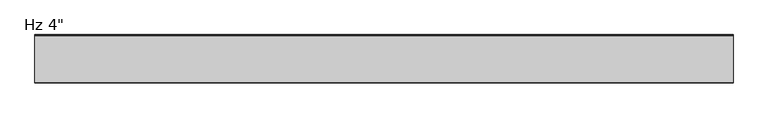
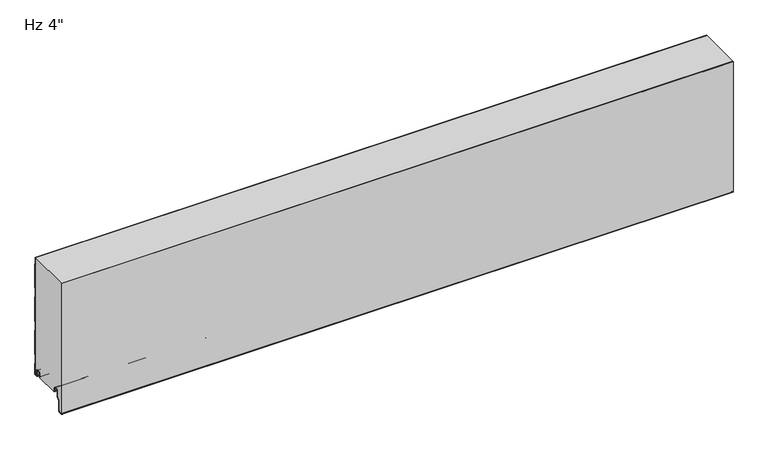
"""IFC4 building model written with IfcOpenShell, lengths in millimetres: plate geometry."""

from ifc_helpers import new_model, si_unit, point, frame, frame_2d, origin, place, context, project, spatial, polyline, circle_curve, trimmed, segment, composite_curve, outline, extrude, source, transform, mapped, element, save
from ifc_brep_helpers import plane_surface, cylinder_surface, revolved_surface, advanced_brep


def plate_fa2d5985(model_context):
    return source(origin(), model_context, "Body", "SolidModel", [
        advanced_brep(
        [(-730.0, -17.0015159, 2.0313088), (-730.0, -18.0015191, 1.0313116), (-730.0, -19.0015105, 2.0313088), (-730.0, -19.0015105, 6.0315125), (-730.0, -18.0015159, 6.0315125), (-730.0, -18.0015159, 8.7237223), (-730.0, -14.7015202, 12.023718), (-730.0, -10.301529, 12.023718), (-730.0, -7.0015335, 8.7237225), (-730.0, -7.0015335, -1.6962564), (-730.0, -5.2315393, -3.4662506), (-730.0, -0.9999916, -3.4662506), (-730.0, -0.9999916, 21.034026), (-730.0, -2.2002307, 22.4196686), (-730.0, -2.2002307, 41.7948349), (-730.0, -1.0, 43.1804679), (-730.0, -1.0, 97.2338833), (-730.0, -2.2002307, 98.6195162), (-730.0, -2.2002307, 117.9946825), (-730.0, -1.0, 119.3803155), (-730.0, -1.0, 173.4337309), (-730.0, -2.2002307, 174.8193638), (-730.0, -2.2002307, 194.1945301), (-730.0, -1.0, 195.5801631), (-730.0, -1.0, 249.6335785), (-730.0, -2.2002307, 251.0192114), (-730.0, -2.2002307, 266.4), (-730.0, -1.2002307, 266.4), (-730.0, -1.2002307, 251.3920919), (-730.0, -0.3417885, 250.4010442), (-730.0, 0.0, 249.4844273), (-730.0, 0.0, 195.7293142), (-730.0, -0.3417885, 194.8126973), (-730.0, -1.2002307, 193.8216497), (-730.0, -1.2002307, 175.1922443), (-730.0, -0.3417885, 174.2011966), (-730.0, 0.0, 173.2845797), (-730.0, 0.0, 119.5294666), (-730.0, -0.3417885, 118.6128497), (-730.0, -1.2002307, 117.6218021), (-730.0, -1.2002307, 98.9923967), (-730.0, -0.3417885, 98.001349), (-730.0, 0.0, 97.0847321), (-730.0, 0.0, 43.329619), (-730.0, -0.3417885, 42.4130021), (-730.0, -1.2002307, 41.4219545), (-730.0, -1.2002307, 22.7925491), (-730.0, -0.3417885, 21.8015014), (-730.0, 0.0, 20.8847931), (-730.0, 8.4e-06, -3.0662545), (-730.0, -1.3999878, -4.4662506), (-730.0, -5.2315393, -4.4662506), (-730.0, -8.0015335, -1.6962564), (-730.0, -8.0015335, 8.7237225), (-730.0, -10.301529, 11.023718), (-730.0, -14.7015202, 11.023718), (-730.0, -17.0015159, 8.7237223), (730.0, -17.0015159, 2.0313088), (730.0, -17.0015159, 8.7237223), (730.0, -14.7015202, 11.023718), (730.0, -10.301529, 11.023718), (730.0, -8.0015335, 8.7237225), (730.0, -8.0015335, -1.6962564), (730.0, -5.2315393, -4.4662506), (730.0, -1.3999878, -4.4662506), (730.0, 8.4e-06, -3.0662545), (730.0, 8.4e-06, 20.8848845), (730.0, -0.3417885, 21.8015014), (730.0, -1.2002307, 22.7925491), (730.0, -1.2002307, 41.4219545), (730.0, -0.3417885, 42.4130021), (730.0, 0.0, 43.329619), (730.0, 0.0, 97.0847321), (730.0, -0.3417885, 98.001349), (730.0, -1.2002307, 98.9923967), (730.0, -1.2002307, 117.6218021), (730.0, -0.3417885, 118.6128497), (730.0, 0.0, 119.5294666), (730.0, 0.0, 173.2845797), (730.0, -0.3417885, 174.2011966), (730.0, -1.2002307, 175.1922443), (730.0, -1.2002307, 193.8216497), (730.0, -0.3417885, 194.8126973), (730.0, 0.0, 195.7293142), (730.0, 0.0, 249.4844273), (730.0, -0.3417885, 250.4010442), (730.0, -1.2002307, 251.3920919), (730.0, -1.2002307, 266.4), (730.0, -2.2002307, 266.4), (730.0, -2.2002307, 251.0192114), (730.0, -1.0, 249.6335785), (730.0, -1.0, 195.5801631), (730.0, -2.2002307, 194.1945301), (730.0, -2.2002307, 174.8193638), (730.0, -1.0, 173.4337309), (730.0, -1.0, 119.3803155), (730.0, -2.2002307, 117.9946825), (730.0, -2.2002307, 98.6195162), (730.0, -1.0, 97.2338833), (730.0, -1.0, 43.1804679), (730.0, -2.2002307, 41.7948349), (730.0, -2.2002307, 22.4196686), (730.0, -0.9999916, 21.034026), (730.0, -0.9999916, -3.4662506), (730.0, -5.2315393, -3.4662506), (730.0, -7.0015335, -1.6962564), (730.0, -7.0015335, 8.7237225), (730.0, -10.301529, 12.023718), (730.0, -14.7015202, 12.023718), (730.0, -18.0015159, 8.7237223), (730.0, -18.0015159, 6.0315125), (730.0, -19.0015105, 6.0315125), (730.0, -19.0015105, 2.0313088), (730.0, -18.0015192, 1.0313116)],
        [
            (0, 1, circle_curve(frame((-730.0, -18.0015132, 2.0313088), z_axis=(-1.0, 0.0, 0.0), x_axis=(0.0, 0.0, 1.0)), 0.9999973)),
            (1, 2, circle_curve(frame((-730.0, -18.0015133, 2.0313088), z_axis=(-1.0, 0.0, 0.0), x_axis=(0.0, 0.0, 1.0)), 0.9999972)),
            (2, 3),
            (3, 4),
            (4, 5),
            (5, 6, circle_curve(frame((-730.0, -14.7015202, 8.7237223), z_axis=(-1.0, 0.0, 0.0), x_axis=(0.0, 0.0, 1.0)), 3.2999957)),
            (6, 7),
            (7, 8, circle_curve(frame((-730.0, -10.301529, 8.7237225), z_axis=(-1.0, 0.0, 0.0), x_axis=(0.0, 0.0, 1.0)), 3.2999955)),
            (8, 9),
            (9, 10, circle_curve(frame((-730.0, -5.2315393, -1.6962564), z_axis=(1.0, 0.0, 0.0), x_axis=(0.0, 0.0, 1.0)), 1.7699942)),
            (10, 11),
            (11, 12),
            (12, 13),
            (13, 14),
            (14, 15),
            (15, 16),
            (16, 17),
            (17, 18),
            (18, 19),
            (19, 20),
            (20, 21),
            (21, 22),
            (22, 23),
            (23, 24),
            (24, 25),
            (25, 26),
            (26, 27),
            (27, 28),
            (28, 29),
            (29, 30, circle_curve(frame((-730.0, -1.3999972, 249.4844273), z_axis=(-1.0, 0.0, 0.0), x_axis=(0.0, 0.0, 1.0)), 1.3999972)),
            (30, 31),
            (31, 32, circle_curve(frame((-730.0, -1.3999972, 195.7293142), z_axis=(-1.0, 0.0, 0.0), x_axis=(0.0, 0.0, 1.0)), 1.3999972)),
            (32, 33),
            (33, 34),
            (34, 35),
            (35, 36, circle_curve(frame((-730.0, -1.3999972, 173.2845797), z_axis=(-1.0, 0.0, 0.0), x_axis=(0.0, 0.0, 1.0)), 1.3999972)),
            (36, 37),
            (37, 38, circle_curve(frame((-730.0, -1.3999972, 119.5294666), z_axis=(-1.0, 0.0, 0.0), x_axis=(0.0, 0.0, 1.0)), 1.3999972)),
            (38, 39),
            (39, 40),
            (40, 41),
            (41, 42, circle_curve(frame((-730.0, -1.3999972, 97.0847321), z_axis=(-1.0, 0.0, 0.0), x_axis=(0.0, 0.0, 1.0)), 1.3999972)),
            (42, 43),
            (43, 44, circle_curve(frame((-730.0, -1.3999972, 43.329619), z_axis=(-1.0, 0.0, 0.0), x_axis=(0.0, 0.0, 1.0)), 1.3999972)),
            (44, 45),
            (45, 46),
            (46, 47),
            (47, 48, circle_curve(frame((-730.0, -1.3999972, 20.8848845), z_axis=(-1.0, 0.0, 0.0), x_axis=(0.0, 0.0, 1.0)), 1.3999972)),
            (48, 49),
            (49, 50, circle_curve(frame((-730.0, -1.3999878, -3.0662545), z_axis=(-1.0, 0.0, 0.0), x_axis=(0.0, 0.0, 1.0)), 1.3999962)),
            (50, 51),
            (51, 52, circle_curve(frame((-730.0, -5.2315393, -1.6962564), z_axis=(-1.0, 0.0, 0.0), x_axis=(0.0, 0.0, 1.0)), 2.7699942)),
            (52, 53),
            (53, 54, circle_curve(frame((-730.0, -10.301529, 8.7237225), z_axis=(1.0, 0.0, 0.0), x_axis=(0.0, 0.0, 1.0)), 2.2999955)),
            (54, 55),
            (55, 56, circle_curve(frame((-730.0, -14.7015202, 8.7237223), z_axis=(1.0, 0.0, 0.0), x_axis=(0.0, 0.0, 1.0)), 2.2999957)),
            (56, 0),
            (57, 58),
            (58, 59, circle_curve(frame((730.0, -14.7015202, 8.7237223), z_axis=(-1.0, 0.0, 0.0), x_axis=(0.0, 0.0, 1.0)), 2.2999957)),
            (59, 60),
            (60, 61, circle_curve(frame((730.0, -10.301529, 8.7237225), z_axis=(-1.0, 0.0, 0.0), x_axis=(0.0, 0.0, 1.0)), 2.2999955)),
            (61, 62),
            (62, 63, circle_curve(frame((730.0, -5.2315393, -1.6962564), z_axis=(1.0, 0.0, 0.0), x_axis=(0.0, 0.0, 1.0)), 2.7699942)),
            (63, 64),
            (64, 65, circle_curve(frame((730.0, -1.3999878, -3.0662545), z_axis=(1.0, 0.0, 0.0), x_axis=(0.0, 0.0, 1.0)), 1.3999962)),
            (65, 66),
            (66, 67, circle_curve(frame((730.0, -1.3999972, 20.8848845), z_axis=(1.0, 0.0, 0.0), x_axis=(0.0, 0.0, 1.0)), 1.3999972)),
            (67, 68),
            (68, 69),
            (69, 70),
            (70, 71, circle_curve(frame((730.0, -1.3999972, 43.329619), z_axis=(1.0, 0.0, 0.0), x_axis=(0.0, 0.0, 1.0)), 1.3999972)),
            (71, 72),
            (72, 73, circle_curve(frame((730.0, -1.3999972, 97.0847321), z_axis=(1.0, 0.0, 0.0), x_axis=(0.0, 0.0, 1.0)), 1.3999972)),
            (73, 74),
            (74, 75),
            (75, 76),
            (76, 77, circle_curve(frame((730.0, -1.3999972, 119.5294666), z_axis=(1.0, 0.0, 0.0), x_axis=(0.0, 0.0, 1.0)), 1.3999972)),
            (77, 78),
            (78, 79, circle_curve(frame((730.0, -1.3999972, 173.2845797), z_axis=(1.0, 0.0, 0.0), x_axis=(0.0, 0.0, 1.0)), 1.3999972)),
            (79, 80),
            (80, 81),
            (81, 82),
            (82, 83, circle_curve(frame((730.0, -1.3999972, 195.7293142), z_axis=(1.0, 0.0, 0.0), x_axis=(0.0, 0.0, 1.0)), 1.3999972)),
            (83, 84),
            (84, 85, circle_curve(frame((730.0, -1.3999972, 249.4844273), z_axis=(1.0, 0.0, 0.0), x_axis=(0.0, 0.0, 1.0)), 1.3999972)),
            (85, 86),
            (86, 87),
            (87, 88),
            (88, 89),
            (89, 90),
            (90, 91),
            (91, 92),
            (92, 93),
            (93, 94),
            (94, 95),
            (95, 96),
            (96, 97),
            (97, 98),
            (98, 99),
            (99, 100),
            (100, 101),
            (101, 102),
            (102, 103),
            (103, 104),
            (104, 105, circle_curve(frame((730.0, -5.2315393, -1.6962564), z_axis=(-1.0, 0.0, 0.0), x_axis=(0.0, 0.0, 1.0)), 1.7699942)),
            (105, 106),
            (106, 107, circle_curve(frame((730.0, -10.301529, 8.7237225), z_axis=(1.0, 0.0, 0.0), x_axis=(0.0, 0.0, 1.0)), 3.2999955)),
            (107, 108),
            (108, 109, circle_curve(frame((730.0, -14.7015202, 8.7237223), z_axis=(1.0, 0.0, 0.0), x_axis=(0.0, 0.0, 1.0)), 3.2999957)),
            (109, 110),
            (110, 111),
            (111, 112),
            (112, 113, circle_curve(frame((730.0, -18.0015133, 2.0313088), z_axis=(1.0, 0.0, 0.0), x_axis=(0.0, 0.0, 1.0)), 0.9999972)),
            (113, 57, circle_curve(frame((730.0, -18.0015132, 2.0313088), z_axis=(1.0, 0.0, 0.0), x_axis=(0.0, 0.0, 1.0)), 0.9999973)),
            (26, 88),
            (87, 27),
            (56, 58),
            (57, 0),
            (55, 59),
            (54, 60),
            (53, 61),
            (52, 62),
            (51, 63),
            (50, 64),
            (49, 65),
            (48, 66),
            (47, 67),
            (46, 68),
            (45, 69),
            (44, 70),
            (43, 71),
            (42, 72),
            (41, 73),
            (40, 74),
            (39, 75),
            (38, 76),
            (37, 77),
            (36, 78),
            (19, 95),
            (94, 20),
            (18, 96),
            (17, 97),
            (16, 98),
            (15, 99),
            (14, 100),
            (13, 101),
            (12, 102),
            (11, 103),
            (10, 104),
            (9, 105),
            (8, 106),
            (7, 107),
            (6, 108),
            (5, 109),
            (4, 110),
            (3, 111),
            (2, 112),
            (1, 113),
            (35, 79),
            (34, 80),
            (33, 81),
            (32, 82),
            (31, 83),
            (30, 84),
            (29, 85),
            (28, 86),
            (25, 89),
            (24, 90),
            (23, 91),
            (22, 92),
            (21, 93),
        ],
        [
            plane_surface(frame((-730.0, 0.0, 533.4), z_axis=(-1.0, 0.0, 0.0), x_axis=(0.0, 1.0, 0.0))),
            plane_surface(frame((730.0, 0.0, 533.4), z_axis=(1.0, 0.0, 0.0), x_axis=(0.0, 1.0, 0.0))),
            plane_surface(frame((730.0, 10.0, 266.4), z_axis=(0.0, 0.0, 1.0), x_axis=(-1.0, 0.0, 0.0))),
            plane_surface(frame((-730.0, -17.0015159, 2.0313088), z_axis=(0.0, 1.0, 0.0), x_axis=(1.0, 0.0, 0.0))),
            revolved_surface(polyline([(730.0, -14.7015202, 11.023718), (-730.0, -14.7015202, 11.023718)]), (-730.0, -14.7015202, 8.7237223), (1.0, 0.0, 0.0)),
            plane_surface(frame((-730.0, -14.7015202, 11.023718), z_axis=(0.0, 0.0, -1.0), x_axis=(1.0, 0.0, 0.0))),
            revolved_surface(polyline([(730.0, -10.301529, 11.023717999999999), (-730.0, -10.301529, 11.023717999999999)]), (-730.0, -10.301529, 8.7237225), (1.0, 0.0, 0.0)),
            plane_surface(frame((-730.0, -8.0015335, 8.7237225), z_axis=(0.0, -1.0, 0.0), x_axis=(1.0, 0.0, 0.0))),
            cylinder_surface(frame((-730.0, -5.2315393, -1.6962564), z_axis=(-1.0, 0.0, 0.0), x_axis=(0.0, 0.0, 1.0)), 2.7699942),
            plane_surface(frame((-730.0, -5.2315393, -4.4662506), z_axis=(0.0, 0.0, -1.0), x_axis=(1.0, 0.0, 0.0))),
            cylinder_surface(frame((-730.0, -1.3999878, -3.0662545), z_axis=(-1.0, 0.0, 0.0), x_axis=(0.0, 0.0, 1.0)), 1.3999962),
            plane_surface(frame((-730.0, 8.4e-06, -3.0662545), z_axis=(0.0, 1.0, 0.0), x_axis=(1.0, 0.0, 0.0))),
            cylinder_surface(frame((-730.0, -1.3999972, 20.8848845), z_axis=(-1.0, 0.0, 0.0), x_axis=(0.0, 0.0, 1.0)), 1.3999972),
            plane_surface(frame((-730.0, -0.3417885, 21.8015014), z_axis=(0.0, 0.755864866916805, 0.6547276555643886), x_axis=(1.0, 0.0, 0.0))),
            plane_surface(frame((-730.0, -1.2002307, 32.1072518), z_axis=(0.0, 1.0, 0.0), x_axis=(1.0, 0.0, 0.0))),
            plane_surface(frame((-730.0, -1.2002307, 41.4219545), z_axis=(0.0, 0.755864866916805, -0.6547276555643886), x_axis=(1.0, 0.0, 0.0))),
            cylinder_surface(frame((-730.0, -1.3999972, 43.329619), z_axis=(-1.0, 0.0, 0.0), x_axis=(0.0, 0.0, 1.0)), 1.3999972),
            plane_surface(frame((-730.0, 0.0, 43.329619), z_axis=(0.0, 1.0, 0.0), x_axis=(1.0, 0.0, 0.0))),
            cylinder_surface(frame((-730.0, -1.3999972, 97.0847321), z_axis=(-1.0, 0.0, 0.0), x_axis=(0.0, 0.0, 1.0)), 1.3999972),
            plane_surface(frame((-730.0, -0.3417885, 98.001349), z_axis=(0.0, 0.755864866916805, 0.6547276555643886), x_axis=(1.0, 0.0, 0.0))),
            plane_surface(frame((-730.0, -1.2002307, 108.3070994), z_axis=(0.0, 1.0, 0.0), x_axis=(1.0, 0.0, 0.0))),
            plane_surface(frame((-730.0, -1.2002307, 117.6218021), z_axis=(0.0, 0.755864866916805, -0.6547276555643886), x_axis=(1.0, 0.0, 0.0))),
            cylinder_surface(frame((-730.0, -1.3999972, 119.5294666), z_axis=(-1.0, 0.0, 0.0), x_axis=(0.0, 0.0, 1.0)), 1.3999972),
            plane_surface(frame((-730.0, 0.0, 119.5294666), z_axis=(0.0, 1.0, 0.0), x_axis=(1.0, 0.0, 0.0))),
            plane_surface(frame((-730.0, -1.0, 173.4337309), z_axis=(0.0, -1.0, 0.0), x_axis=(1.0, 0.0, 0.0))),
            plane_surface(frame((-730.0, -1.0, 119.3803155), z_axis=(0.0, -0.755864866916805, 0.6547276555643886), x_axis=(1.0, 0.0, 0.0))),
            plane_surface(frame((-730.0, -2.2002307, 117.9946825), z_axis=(0.0, -1.0, 0.0), x_axis=(1.0, 0.0, 0.0))),
            plane_surface(frame((-730.0, -2.2002307, 98.6195162), z_axis=(0.0, -0.755864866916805, -0.6547276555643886), x_axis=(1.0, 0.0, 0.0))),
            plane_surface(frame((-730.0, -1.0, 97.2338833), z_axis=(0.0, -1.0, 0.0), x_axis=(1.0, 0.0, 0.0))),
            plane_surface(frame((-730.0, -1.0, 43.1804679), z_axis=(0.0, -0.755864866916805, 0.6547276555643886), x_axis=(1.0, 0.0, 0.0))),
            plane_surface(frame((-730.0, -2.2002307, 41.7948349), z_axis=(0.0, -1.0, 0.0), x_axis=(1.0, 0.0, 0.0))),
            plane_surface(frame((-730.0, -2.2002307, 22.4196686), z_axis=(0.0, -0.755864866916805, -0.6547276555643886), x_axis=(1.0, 0.0, 0.0))),
            plane_surface(frame((-730.0, -0.9999916, 21.034026), z_axis=(0.0, -1.0, 0.0), x_axis=(1.0, 0.0, 0.0))),
            plane_surface(frame((-730.0, -0.9999916, -3.4662506), z_axis=(0.0, 0.0, 1.0), x_axis=(1.0, 0.0, 0.0))),
            revolved_surface(polyline([(730.0, -5.2315393, 0.07373779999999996), (-730.0, -5.2315393, 0.07373779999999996)]), (-730.0, -5.2315393, -1.6962564), (1.0, 0.0, 0.0)),
            plane_surface(frame((-730.0, -7.0015335, -1.6962564), z_axis=(0.0, 1.0, 0.0), x_axis=(1.0, 0.0, 0.0))),
            cylinder_surface(frame((-730.0, -10.301529, 8.7237225), z_axis=(-1.0, 0.0, 0.0), x_axis=(0.0, 0.0, 1.0)), 3.2999955),
            plane_surface(frame((-730.0, -10.301529, 12.023718), z_axis=(0.0, 0.0, 1.0), x_axis=(1.0, 0.0, 0.0))),
            cylinder_surface(frame((-730.0, -14.7015202, 8.7237223), z_axis=(-1.0, 0.0, 0.0), x_axis=(0.0, 0.0, 1.0)), 3.2999957),
            plane_surface(frame((-730.0, -18.0015159, 8.7237223), z_axis=(0.0, -1.0, 0.0), x_axis=(1.0, 0.0, 0.0))),
            plane_surface(frame((-730.0, -18.0015159, 6.0315125), z_axis=(0.0, 0.0, 1.0), x_axis=(1.0, 0.0, 0.0))),
            plane_surface(frame((-730.0, -19.0015105, 6.0315125), z_axis=(0.0, -1.0, 0.0), x_axis=(1.0, 0.0, 0.0))),
            cylinder_surface(frame((-730.0, -18.0015133, 2.0313088), z_axis=(-1.0, 0.0, 0.0), x_axis=(0.0, 0.0, 1.0)), 0.9999972),
            cylinder_surface(frame((-730.0, -18.0015132, 2.0313088), z_axis=(-1.0, 0.0, 0.0), x_axis=(0.0, 0.0, 1.0)), 0.9999973),
            cylinder_surface(frame((-730.0, -1.3999972, 173.2845797), z_axis=(-1.0, 0.0, 0.0), x_axis=(0.0, 0.0, 1.0)), 1.3999972),
            plane_surface(frame((-730.0, -0.3417885, 174.2011966), z_axis=(0.0, 0.755864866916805, 0.6547276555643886), x_axis=(1.0, 0.0, 0.0))),
            plane_surface(frame((-730.0, -1.2002307, 184.506947), z_axis=(0.0, 1.0, 0.0), x_axis=(1.0, 0.0, 0.0))),
            plane_surface(frame((-730.0, -1.2002307, 193.8216497), z_axis=(0.0, 0.755864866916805, -0.6547276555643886), x_axis=(1.0, 0.0, 0.0))),
            cylinder_surface(frame((-730.0, -1.3999972, 195.7293142), z_axis=(-1.0, 0.0, 0.0), x_axis=(0.0, 0.0, 1.0)), 1.3999972),
            plane_surface(frame((-730.0, 0.0, 195.7293142), z_axis=(0.0, 1.0, 0.0), x_axis=(1.0, 0.0, 0.0))),
            cylinder_surface(frame((-730.0, -1.3999972, 249.4844273), z_axis=(-1.0, 0.0, 0.0), x_axis=(0.0, 0.0, 1.0)), 1.3999972),
            plane_surface(frame((-730.0, -0.3417885, 250.4010442), z_axis=(0.0, 0.755864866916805, 0.6547276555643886), x_axis=(1.0, 0.0, 0.0))),
            plane_surface(frame((-730.0, -1.2002307, 260.7067946), z_axis=(0.0, 1.0, 0.0), x_axis=(1.0, 0.0, 0.0))),
            plane_surface(frame((-730.0, -2.2002307, 270.3943777), z_axis=(0.0, -1.0, 0.0), x_axis=(1.0, 0.0, 0.0))),
            plane_surface(frame((-730.0, -2.2002307, 251.0192114), z_axis=(0.0, -0.755864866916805, -0.6547276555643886), x_axis=(1.0, 0.0, 0.0))),
            plane_surface(frame((-730.0, -1.0, 249.6335785), z_axis=(0.0, -1.0, 0.0), x_axis=(1.0, 0.0, 0.0))),
            plane_surface(frame((-730.0, -1.0, 195.5801631), z_axis=(0.0, -0.755864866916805, 0.6547276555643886), x_axis=(1.0, 0.0, 0.0))),
            plane_surface(frame((-730.0, -2.2002307, 194.1945301), z_axis=(0.0, -1.0, 0.0), x_axis=(1.0, 0.0, 0.0))),
            plane_surface(frame((-730.0, -2.2002307, 174.8193638), z_axis=(0.0, -0.755864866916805, -0.6547276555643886), x_axis=(1.0, 0.0, 0.0))),
        ],
        [
            (0, [[1, 2, 3, 4, 5, 6, 7, 8, 9, 10, 11, 12, 13, 14, 15, 16, 17, 18, 19, 20, 21, 22, 23, 24, 25, 26, 27, 28, 29, 30, 31, 32, 33, 34, 35, 36, 37, 38, 39, 40, 41, 42, 43, 44, 45, 46, 47, 48, 49, 50, 51, 52, 53, 54, 55, 56, 57]]),
            (1, [[58, 59, 60, 61, 62, 63, 64, 65, 66, 67, 68, 69, 70, 71, 72, 73, 74, 75, 76, 77, 78, 79, 80, 81, 82, 83, 84, 85, 86, 87, 88, 89, 90, 91, 92, 93, 94, 95, 96, 97, 98, 99, 100, 101, 102, 103, 104, 105, 106, 107, 108, 109, 110, 111, 112, 113, 114]]),
            (2, [[115, -88, 116, -27]]),
            (3, [[117, -58, 118, -57]]),
            (4, [[119, -59, -117, -56]]),
            (5, [[120, -60, -119, -55]]),
            (6, [[121, -61, -120, -54]]),
            (7, [[122, -62, -121, -53]]),
            (8, [[123, -63, -122, -52]]),
            (9, [[124, -64, -123, -51]]),
            (10, [[125, -65, -124, -50]]),
            (11, [[126, -66, -125, -49]]),
            (12, [[127, -67, -126, -48]]),
            (13, [[128, -68, -127, -47]]),
            (14, [[129, -69, -128, -46]]),
            (15, [[130, -70, -129, -45]]),
            (16, [[131, -71, -130, -44]]),
            (17, [[132, -72, -131, -43]]),
            (18, [[133, -73, -132, -42]]),
            (19, [[134, -74, -133, -41]]),
            (20, [[135, -75, -134, -40]]),
            (21, [[136, -76, -135, -39]]),
            (22, [[137, -77, -136, -38]]),
            (23, [[138, -78, -137, -37]]),
            (24, [[139, -95, 140, -20]]),
            (25, [[141, -96, -139, -19]]),
            (26, [[142, -97, -141, -18]]),
            (27, [[143, -98, -142, -17]]),
            (28, [[144, -99, -143, -16]]),
            (29, [[145, -100, -144, -15]]),
            (30, [[146, -101, -145, -14]]),
            (31, [[147, -102, -146, -13]]),
            (32, [[148, -103, -147, -12]]),
            (33, [[149, -104, -148, -11]]),
            (34, [[150, -105, -149, -10]]),
            (35, [[151, -106, -150, -9]]),
            (36, [[152, -107, -151, -8]]),
            (37, [[153, -108, -152, -7]]),
            (38, [[154, -109, -153, -6]]),
            (39, [[155, -110, -154, -5]]),
            (40, [[156, -111, -155, -4]]),
            (41, [[157, -112, -156, -3]]),
            (42, [[158, -113, -157, -2]]),
            (43, [[-118, -114, -158, -1]]),
            (44, [[159, -79, -138, -36]]),
            (45, [[160, -80, -159, -35]]),
            (46, [[161, -81, -160, -34]]),
            (47, [[162, -82, -161, -33]]),
            (48, [[163, -83, -162, -32]]),
            (49, [[164, -84, -163, -31]]),
            (50, [[165, -85, -164, -30]]),
            (51, [[166, -86, -165, -29]]),
            (52, [[-28, -116, -87, -166]]),
            (53, [[-89, -115, -26, 167]]),
            (54, [[168, -90, -167, -25]]),
            (55, [[169, -91, -168, -24]]),
            (56, [[170, -92, -169, -23]]),
            (57, [[171, -93, -170, -22]]),
            (58, [[-140, -94, -171, -21]]),
        ],
    ),
        extrude(outline(composite_curve([segment(trimmed(circle_curve(frame_2d((-98.0297607, -32.4521176)), 3.5702393), [point((-97.7184903, -36.008762))], [point((-101.6, -32.4521176))], False, "CARTESIAN"), True, "CONTINUOUS"), segment(polyline([(-101.6, -32.4521176), (-101.6, 266.4), (-100.5993606, 266.4), (-100.5993606, -32.509446)]), True, "CONTINUOUS"), segment(trimmed(circle_curve(frame_2d((-98.0297607, -32.4521176)), 2.5702393), [point((-100.5993606, -32.509446))], [point((-97.8056751, -35.0125699))], True, "CARTESIAN"), True, "CONTINUOUS"), segment(polyline([(-97.8056751, -35.0125699), (-92.8238542, -34.5765709)]), True, "CONTINUOUS"), segment(trimmed(circle_curve(frame_2d((-93.3052448, -31.9198392)), 2.6999926), [point((-92.8238542, -34.5765709))], [point((-90.6052522, -31.9198392))], True, "CARTESIAN"), True, "CONTINUOUS"), segment(polyline([(-90.6052522, -31.9198392), (-90.6052522, -9.8247096), (-85.1031811, -4.3226385)]), True, "CONTINUOUS"), segment(trimmed(circle_curve(frame_2d((-86.3052588, -3.1205608)), 1.6999946), [point((-85.1031811, -4.3226385))], [point((-84.6052642, -3.1205608))], True, "CARTESIAN"), True, "CONTINUOUS"), segment(polyline([(-84.6052642, -3.1205608), (-84.6052642, 8.6903283)]), True, "CONTINUOUS"), segment(trimmed(circle_curve(frame_2d((-81.2552689, 8.6903283)), 3.3499953), [point((-84.6052642, 8.6903283))], [point((-81.2552689, 12.0403236))], False, "CARTESIAN"), True, "CONTINUOUS"), segment(polyline([(-81.2552689, 12.0403236), (-76.8552777, 12.0403236)]), True, "CONTINUOUS"), segment(trimmed(circle_curve(frame_2d((-76.8552777, 8.6903283)), 3.3499953), [point((-76.8552777, 12.0403236))], [point((-73.5052824, 8.6903283))], False, "CARTESIAN"), True, "CONTINUOUS"), segment(polyline([(-73.5052824, 8.6903283), (-73.5052824, 5.9912173), (-72.1068035, 5.9912173), (-72.1068035, 2.2328239)]), True, "CONTINUOUS"), segment(trimmed(circle_curve(frame_2d((-73.3068002, 2.2313092)), 1.1999976), [point((-72.1068035, 2.2328239))], [point((-73.2762782, 1.0316999))], False, "CARTESIAN"), True, "CONTINUOUS"), segment(trimmed(circle_curve(frame_2d((-73.3068002, 2.2313092)), 1.1999976), [point((-73.2762782, 1.0316999))], [point((-74.5052824, 2.1710221))], False, "CARTESIAN"), True, "CONTINUOUS"), segment(polyline([(-74.5052824, 2.1710221), (-74.5052824, 8.6903283)]), True, "CONTINUOUS"), segment(trimmed(circle_curve(frame_2d((-76.8552777, 8.6903283)), 2.3499953), [point((-74.5052824, 8.6903283))], [point((-76.8552777, 11.0403236))], True, "CARTESIAN"), True, "CONTINUOUS"), segment(polyline([(-76.8552777, 11.0403236), (-81.2552689, 11.0403236)]), True, "CONTINUOUS"), segment(trimmed(circle_curve(frame_2d((-81.2552689, 8.6903283)), 2.3499953), [point((-81.2552689, 11.0403236))], [point((-83.6052642, 8.6903283))], True, "CARTESIAN"), True, "CONTINUOUS"), segment(polyline([(-83.6052642, 8.6903283), (-83.6052642, -3.1205608)]), True, "CONTINUOUS"), segment(trimmed(circle_curve(frame_2d((-86.3052588, -3.1205608)), 2.6999946), [point((-83.6052642, -3.1205608))], [point((-84.3960743, -5.0297453))], False, "CARTESIAN"), True, "CONTINUOUS"), segment(polyline([(-84.3960743, -5.0297453), (-89.2244918, -9.8581627)]), True, "CONTINUOUS"), segment(trimmed(circle_curve(frame_2d((-88.3052548, -10.7773997)), 1.2999974), [point((-89.2244918, -9.8581627))], [point((-89.6052522, -10.7773997))], True, "CARTESIAN"), True, "CONTINUOUS"), segment(polyline([(-89.6052522, -10.7773997), (-89.6052522, -31.9198392)]), True, "CONTINUOUS"), segment(trimmed(circle_curve(frame_2d((-93.3052448, -31.9198392)), 3.6999926), [point((-89.6052522, -31.9198392))], [point((-92.6944437, -35.5690675))], False, "CARTESIAN"), True, "CONTINUOUS"), segment(polyline([(-92.6944437, -35.5690675), (-97.7184903, -36.008762)]), True, "CONTINUOUS")], self_intersect=False)), frame((-730.0, 0.0, 0.0), z_axis=(1.0, 0.0, 0.0), x_axis=(0.0, 1.0, 0.0)), (0.0, 0.0, 1.0), 1460.0),
        advanced_brep(
        [(-730.0, -73.270875, 1.0316999), (-730.0, -72.1014003, 2.2328239), (-730.0, -72.1014003, 5.9912173), (-730.0, -73.4998791, 5.9912173), (-730.0, -73.4998791, 8.6903283), (-730.0, -76.8498744, 12.0403236), (-730.0, -81.2498656, 12.0403236), (-730.0, -84.5998609, 8.6903283), (-730.0, -84.5998609, -3.1205608), (-730.0, -85.0977778, -4.3226385), (-730.0, -90.5998489, -9.8247096), (-730.0, -90.5998489, -31.9198392), (-730.0, -92.8184509, -34.5765709), (-730.0, -97.8002718, -35.0125699), (-730.0, -100.5945967, -32.4521176), (-730.0, -100.6, 266.4), (-730.0, -2.2002307, 266.4), (-730.0, -2.2002307, 251.0192115), (-730.0, -1.0, 249.6335785), (-730.0, -1.0, 195.5801631), (-730.0, -2.2002307, 194.1945302), (-730.0, -2.2002307, 174.8193639), (-730.0, -1.0, 173.4337309), (-730.0, -1.0, 119.3803155), (-730.0, -2.2002307, 117.9946826), (-730.0, -2.2002307, 98.6195163), (-730.0, -1.0, 97.2338833), (-730.0, -1.0, 43.1804679), (-730.0, -2.2002307, 41.794835), (-730.0, -2.2002307, 22.4196687), (-730.0, -0.9999916, 21.034026), (-730.0, -0.9999916, -3.4662506), (-730.0, -5.2315389, -3.4662506), (-730.0, -7.0015331, -1.6962564), (-730.0, -7.0015331, 8.7237222), (-730.0, -10.301529, 12.023718), (-730.0, -14.7015202, 12.023718), (-730.0, -18.0015159, 8.7237223), (-730.0, -18.0015159, 6.0315125), (-730.0, -19.0015105, 6.0315125), (-730.0, -19.0015105, 2.0313089), (-730.0, -18.0015192, 1.0313117), (-730.0, -19.0328308, 0.0), (-730.0, -72.2391751, 0.0), (730.0, -73.270875, 1.0316999), (730.0, -72.2391751, 0.0), (730.0, -19.0328308, 0.0), (730.0, -18.0015192, 1.0313117), (730.0, -19.0015105, 2.0313089), (730.0, -19.0015105, 6.0315125), (730.0, -18.0015159, 6.0315125), (730.0, -18.0015159, 8.7237223), (730.0, -14.7015202, 12.023718), (730.0, -10.301529, 12.023718), (730.0, -7.0015331, 8.7237222), (730.0, -7.0015331, -1.6962564), (730.0, -5.2315389, -3.4662506), (730.0, -0.9999916, -3.4662506), (730.0, -0.9999916, 21.034026), (730.0, -2.2002307, 22.4196687), (730.0, -2.2002307, 41.794835), (730.0, -1.0, 43.1804679), (730.0, -1.0, 97.2338833), (730.0, -2.2002307, 98.6195163), (730.0, -2.2002307, 117.9946826), (730.0, -1.0, 119.3803155), (730.0, -1.0, 173.4337309), (730.0, -2.2002307, 174.8193639), (730.0, -2.2002307, 194.1945302), (730.0, -1.0, 195.5801631), (730.0, -1.0, 249.6335785), (730.0, -2.2002307, 251.0192115), (730.0, -2.2002307, 266.4), (730.0, -100.6, 266.4), (730.0, -100.6, -32.4521176), (730.0, -97.8002718, -35.0125699), (730.0, -92.8184509, -34.5765709), (730.0, -90.5998489, -31.9198392), (730.0, -90.5998489, -9.8247096), (730.0, -85.0977778, -4.3226385), (730.0, -84.5998609, -3.1205608), (730.0, -84.5998609, 8.6903283), (730.0, -81.2498656, 12.0403236), (730.0, -76.8498744, 12.0403236), (730.0, -73.4998791, 8.6903283), (730.0, -73.4998791, 5.9912173), (730.0, -72.1014003, 5.9912173), (730.0, -72.1014003, 2.2328239)],
        [
            (0, 1, circle_curve(frame((-730.0, -73.3013969, 2.2313092), z_axis=(1.0, 0.0, 0.0), x_axis=(0.0, 0.0, -1.0)), 1.1999976)),
            (1, 2),
            (2, 3),
            (3, 4),
            (4, 5, circle_curve(frame((-730.0, -76.8498744, 8.6903283), z_axis=(1.0, 0.0, 0.0), x_axis=(0.0, 0.0, -1.0)), 3.3499953)),
            (5, 6),
            (6, 7, circle_curve(frame((-730.0, -81.2498656, 8.6903283), z_axis=(1.0, 0.0, 0.0), x_axis=(0.0, 0.0, -1.0)), 3.3499953)),
            (7, 8),
            (8, 9, circle_curve(frame((-730.0, -86.2998555, -3.1205608), z_axis=(-1.0, 0.0, 0.0), x_axis=(0.0, 0.0, -1.0)), 1.6999946)),
            (9, 10),
            (10, 11),
            (11, 12, circle_curve(frame((-730.0, -93.2998415, -31.9198392), z_axis=(-1.0, 0.0, 0.0), x_axis=(0.0, 0.0, -1.0)), 2.6999926)),
            (12, 13),
            (13, 14, circle_curve(frame((-730.0, -98.0243575, -32.4521176), z_axis=(-1.0, 0.0, 0.0), x_axis=(0.0, 0.0, -1.0)), 2.5702393)),
            (14, 15),
            (15, 16),
            (16, 17),
            (17, 18),
            (18, 19),
            (19, 20),
            (20, 21),
            (21, 22),
            (22, 23),
            (23, 24),
            (24, 25),
            (25, 26),
            (26, 27),
            (27, 28),
            (28, 29),
            (29, 30),
            (30, 31),
            (31, 32),
            (32, 33, circle_curve(frame((-730.0, -5.2315389, -1.6962564), z_axis=(-1.0, 0.0, 0.0), x_axis=(0.0, 0.0, -1.0)), 1.7699942)),
            (33, 34),
            (34, 35, circle_curve(frame((-730.0, -10.301529, 8.7237222), z_axis=(1.0, 0.0, 0.0), x_axis=(0.0, 0.0, -1.0)), 3.2999959)),
            (35, 36),
            (36, 37, circle_curve(frame((-730.0, -14.7015202, 8.7237223), z_axis=(1.0, 0.0, 0.0), x_axis=(0.0, 0.0, -1.0)), 3.2999957)),
            (37, 38),
            (38, 39),
            (39, 40),
            (40, 41, circle_curve(frame((-730.0, -18.0015133, 2.0313089), z_axis=(1.0, 0.0, 0.0), x_axis=(0.0, 0.0, -1.0)), 0.9999972)),
            (41, 42),
            (42, 43),
            (43, 0),
            (44, 45),
            (45, 46),
            (46, 47),
            (47, 48, circle_curve(frame((730.0, -18.0015133, 2.0313089), z_axis=(-1.0, 0.0, 0.0), x_axis=(0.0, 0.0, -1.0)), 0.9999972)),
            (48, 49),
            (49, 50),
            (50, 51),
            (51, 52, circle_curve(frame((730.0, -14.7015202, 8.7237223), z_axis=(-1.0, 0.0, 0.0), x_axis=(0.0, 0.0, -1.0)), 3.2999957)),
            (52, 53),
            (53, 54, circle_curve(frame((730.0, -10.301529, 8.7237222), z_axis=(-1.0, 0.0, 0.0), x_axis=(0.0, 0.0, -1.0)), 3.2999959)),
            (54, 55),
            (55, 56, circle_curve(frame((730.0, -5.2315389, -1.6962564), z_axis=(1.0, 0.0, 0.0), x_axis=(0.0, 0.0, -1.0)), 1.7699942)),
            (56, 57),
            (57, 58),
            (58, 59),
            (59, 60),
            (60, 61),
            (61, 62),
            (62, 63),
            (63, 64),
            (64, 65),
            (65, 66),
            (66, 67),
            (67, 68),
            (68, 69),
            (69, 70),
            (70, 71),
            (71, 72),
            (72, 73),
            (73, 74),
            (74, 75, circle_curve(frame((730.0, -98.0243575, -32.4521176), z_axis=(1.0, 0.0, 0.0), x_axis=(0.0, 0.0, -1.0)), 2.5702393)),
            (75, 76),
            (76, 77, circle_curve(frame((730.0, -93.2998415, -31.9198392), z_axis=(1.0, 0.0, 0.0), x_axis=(0.0, 0.0, -1.0)), 2.6999926)),
            (77, 78),
            (78, 79),
            (79, 80, circle_curve(frame((730.0, -86.2998555, -3.1205608), z_axis=(1.0, 0.0, 0.0), x_axis=(0.0, 0.0, -1.0)), 1.6999946)),
            (80, 81),
            (81, 82, circle_curve(frame((730.0, -81.2498656, 8.6903283), z_axis=(-1.0, 0.0, 0.0), x_axis=(0.0, 0.0, -1.0)), 3.3499953)),
            (82, 83),
            (83, 84, circle_curve(frame((730.0, -76.8498744, 8.6903283), z_axis=(-1.0, 0.0, 0.0), x_axis=(0.0, 0.0, -1.0)), 3.3499953)),
            (84, 85),
            (85, 86),
            (86, 87),
            (87, 44, circle_curve(frame((730.0, -73.3013969, 2.2313092), z_axis=(-1.0, 0.0, 0.0), x_axis=(0.0, 0.0, -1.0)), 1.1999976)),
            (43, 45),
            (44, 0),
            (42, 46),
            (73, 15),
            (14, 74),
            (13, 75),
            (12, 76),
            (11, 77),
            (10, 78),
            (9, 79),
            (8, 80),
            (7, 81),
            (6, 82),
            (5, 83),
            (4, 84),
            (3, 85),
            (2, 86),
            (1, 87),
            (72, 16),
            (41, 47),
            (40, 48),
            (39, 49),
            (38, 50),
            (37, 51),
            (36, 52),
            (35, 53),
            (34, 54),
            (33, 55),
            (32, 56),
            (31, 57),
            (30, 58),
            (29, 59),
            (28, 60),
            (27, 61),
            (26, 62),
            (25, 63),
            (24, 64),
            (23, 65),
            (22, 66),
            (21, 67),
            (20, 68),
            (19, 69),
            (18, 70),
            (17, 71),
        ],
        [
            plane_surface(frame((-730.0, -100.6, 533.4), z_axis=(-1.0, 0.0, 0.0), x_axis=(0.0, -1.0, 0.0))),
            plane_surface(frame((730.0, -100.6, 533.4), z_axis=(1.0, 0.0, 0.0), x_axis=(0.0, -1.0, 0.0))),
            plane_surface(frame((-730.0, -73.270875, 1.0316999), z_axis=(0.0, -0.7071067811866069, -0.7071067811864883), x_axis=(1.0, 0.0, 0.0))),
            plane_surface(frame((-730.0, -72.2391751, 0.0), z_axis=(0.0, 0.0, -1.0), x_axis=(1.0, 0.0, 0.0))),
            plane_surface(frame((-730.0, -100.6, 1024.665622), z_axis=(0.0, -1.0, 0.0), x_axis=(1.0, 0.0, 0.0))),
            cylinder_surface(frame((-730.0, -98.0243575, -32.4521176), z_axis=(-1.0, 0.0, 0.0), x_axis=(0.0, 0.0, -1.0)), 2.5702393),
            plane_surface(frame((-730.0, -97.8002718, -35.0125699), z_axis=(0.0, 0.08718474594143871, -0.9961921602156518), x_axis=(1.0, 0.0, 0.0))),
            cylinder_surface(frame((-730.0, -93.2998415, -31.9198392), z_axis=(-1.0, 0.0, 0.0), x_axis=(0.0, 0.0, -1.0)), 2.6999926),
            plane_surface(frame((-730.0, -90.5998489, -31.9198392), z_axis=(0.0, 1.0, 0.0), x_axis=(1.0, 0.0, 0.0))),
            plane_surface(frame((-730.0, -90.5998489, -9.8247096), z_axis=(0.0, 0.7071067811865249, -0.7071067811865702), x_axis=(1.0, 0.0, 0.0))),
            cylinder_surface(frame((-730.0, -86.2998555, -3.1205608), z_axis=(-1.0, 0.0, 0.0), x_axis=(0.0, 0.0, -1.0)), 1.6999946),
            plane_surface(frame((-730.0, -84.5998609, -3.1205608), z_axis=(0.0, 1.0, 0.0), x_axis=(1.0, 0.0, 0.0))),
            revolved_surface(polyline([(730.0, -81.2498656, 5.340332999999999), (-730.0, -81.2498656, 5.340332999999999)]), (-730.0, -81.2498656, 8.6903283), (1.0, 0.0, 0.0)),
            plane_surface(frame((-730.0, -81.2498656, 12.0403236), z_axis=(0.0, 0.0, -1.0), x_axis=(1.0, 0.0, 0.0))),
            revolved_surface(polyline([(730.0, -76.8498744, 5.340332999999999), (-730.0, -76.8498744, 5.340332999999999)]), (-730.0, -76.8498744, 8.6903283), (1.0, 0.0, 0.0)),
            plane_surface(frame((-730.0, -73.4998791, 8.6903283), z_axis=(0.0, -1.0, 0.0), x_axis=(1.0, 0.0, 0.0))),
            plane_surface(frame((-730.0, -73.4998791, 5.9912173), z_axis=(0.0, 0.0, -1.0), x_axis=(1.0, 0.0, 0.0))),
            plane_surface(frame((-730.0, -72.1014003, 5.9912173), z_axis=(0.0, -1.0, 0.0), x_axis=(1.0, 0.0, 0.0))),
            revolved_surface(polyline([(730.0, -73.3013969, 1.0313116), (-730.0, -73.3013969, 1.0313116)]), (-730.0, -73.3013969, 2.2313092), (1.0, 0.0, 0.0)),
            plane_surface(frame((730.0, 10.0, 266.4), z_axis=(0.0, 0.0, 1.0), x_axis=(-1.0, 0.0, 0.0))),
            plane_surface(frame((-730.0, -19.0328308, 0.0), z_axis=(0.0, 0.7071067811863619, -0.7071067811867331), x_axis=(1.0, 0.0, 0.0))),
            revolved_surface(polyline([(730.0, -18.0015133, 1.0313116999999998), (-730.0, -18.0015133, 1.0313116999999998)]), (-730.0, -18.0015133, 2.0313089), (1.0, 0.0, 0.0)),
            plane_surface(frame((-730.0, -19.0015105, 2.0313089), z_axis=(0.0, 1.0, 0.0), x_axis=(1.0, 0.0, 0.0))),
            plane_surface(frame((-730.0, -19.0015105, 6.0315125), z_axis=(0.0, 0.0, -1.0), x_axis=(1.0, 0.0, 0.0))),
            plane_surface(frame((-730.0, -18.0015159, 6.0315125), z_axis=(0.0, 1.0, 0.0), x_axis=(1.0, 0.0, 0.0))),
            revolved_surface(polyline([(730.0, -14.7015202, 5.4237266), (-730.0, -14.7015202, 5.4237266)]), (-730.0, -14.7015202, 8.7237223), (1.0, 0.0, 0.0)),
            plane_surface(frame((-730.0, -14.7015202, 12.023718), z_axis=(0.0, 0.0, -1.0), x_axis=(1.0, 0.0, 0.0))),
            revolved_surface(polyline([(730.0, -10.301529, 5.423726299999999), (-730.0, -10.301529, 5.423726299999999)]), (-730.0, -10.301529, 8.7237222), (1.0, 0.0, 0.0)),
            plane_surface(frame((-730.0, -7.0015331, 8.7237222), z_axis=(0.0, -1.0, 0.0), x_axis=(1.0, 0.0, 0.0))),
            cylinder_surface(frame((-730.0, -5.2315389, -1.6962564), z_axis=(-1.0, 0.0, 0.0), x_axis=(0.0, 0.0, -1.0)), 1.7699942),
            plane_surface(frame((-730.0, -5.2315389, -3.4662506), z_axis=(0.0, 0.0, -1.0), x_axis=(1.0, 0.0, 0.0))),
            plane_surface(frame((-730.0, -0.9999916, -3.4662506), z_axis=(0.0, 1.0, 0.0), x_axis=(1.0, 0.0, 0.0))),
            plane_surface(frame((-730.0, -0.9999916, 21.034026), z_axis=(0.0, 0.7558648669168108, 0.6547276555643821), x_axis=(1.0, 0.0, 0.0))),
            plane_surface(frame((-730.0, -2.2002307, 22.4196687), z_axis=(0.0, 1.0, 0.0), x_axis=(1.0, 0.0, 0.0))),
            plane_surface(frame((-730.0, -2.2002307, 41.794835), z_axis=(0.0, 0.7558648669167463, -0.6547276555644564), x_axis=(1.0, 0.0, 0.0))),
            plane_surface(frame((-730.0, -1.0, 43.1804679), z_axis=(0.0, 1.0, 0.0), x_axis=(1.0, 0.0, 0.0))),
            plane_surface(frame((-730.0, -1.0, 97.2338833), z_axis=(0.0, 0.7558648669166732, 0.6547276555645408), x_axis=(1.0, 0.0, 0.0))),
            plane_surface(frame((-730.0, -2.2002307, 98.6195163), z_axis=(0.0, 1.0, 0.0), x_axis=(1.0, 0.0, 0.0))),
            plane_surface(frame((-730.0, -2.2002307, 117.9946826), z_axis=(0.0, 0.7558648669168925, -0.6547276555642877), x_axis=(1.0, 0.0, 0.0))),
            plane_surface(frame((-730.0, -1.0, 119.3803155), z_axis=(0.0, 1.0, 0.0), x_axis=(1.0, 0.0, 0.0))),
            plane_surface(frame((-730.0, -1.0, 173.4337309), z_axis=(0.0, 0.7558648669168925, 0.6547276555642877), x_axis=(1.0, 0.0, 0.0))),
            plane_surface(frame((-730.0, -2.2002307, 174.8193639), z_axis=(0.0, 1.0, 0.0), x_axis=(1.0, 0.0, 0.0))),
            plane_surface(frame((-730.0, -2.2002307, 194.1945302), z_axis=(0.0, 0.7558648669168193, -0.6547276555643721), x_axis=(1.0, 0.0, 0.0))),
            plane_surface(frame((-730.0, -1.0, 195.5801631), z_axis=(0.0, 1.0, 0.0), x_axis=(1.0, 0.0, 0.0))),
            plane_surface(frame((-730.0, -1.0, 249.6335785), z_axis=(0.0, 0.7558648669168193, 0.6547276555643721), x_axis=(1.0, 0.0, 0.0))),
            plane_surface(frame((-730.0, -2.2002307, 251.0192115), z_axis=(0.0, 1.0, 0.0), x_axis=(1.0, 0.0, 0.0))),
        ],
        [
            (0, [[1, 2, 3, 4, 5, 6, 7, 8, 9, 10, 11, 12, 13, 14, 15, 16, 17, 18, 19, 20, 21, 22, 23, 24, 25, 26, 27, 28, 29, 30, 31, 32, 33, 34, 35, 36, 37, 38, 39, 40, 41, 42, 43, 44]]),
            (1, [[45, 46, 47, 48, 49, 50, 51, 52, 53, 54, 55, 56, 57, 58, 59, 60, 61, 62, 63, 64, 65, 66, 67, 68, 69, 70, 71, 72, 73, 74, 75, 76, 77, 78, 79, 80, 81, 82, 83, 84, 85, 86, 87, 88]]),
            (2, [[89, -45, 90, -44]]),
            (3, [[-43, 91, -46, -89]]),
            (4, [[-74, 92, -15, 93]]),
            (5, [[94, -75, -93, -14]]),
            (6, [[95, -76, -94, -13]]),
            (7, [[96, -77, -95, -12]]),
            (8, [[97, -78, -96, -11]]),
            (9, [[98, -79, -97, -10]]),
            (10, [[99, -80, -98, -9]]),
            (11, [[100, -81, -99, -8]]),
            (12, [[101, -82, -100, -7]]),
            (13, [[102, -83, -101, -6]]),
            (14, [[103, -84, -102, -5]]),
            (15, [[104, -85, -103, -4]]),
            (16, [[105, -86, -104, -3]]),
            (17, [[106, -87, -105, -2]]),
            (18, [[-90, -88, -106, -1]]),
            (19, [[-92, -73, 107, -16]]),
            (20, [[108, -47, -91, -42]]),
            (21, [[109, -48, -108, -41]]),
            (22, [[110, -49, -109, -40]]),
            (23, [[111, -50, -110, -39]]),
            (24, [[112, -51, -111, -38]]),
            (25, [[113, -52, -112, -37]]),
            (26, [[114, -53, -113, -36]]),
            (27, [[115, -54, -114, -35]]),
            (28, [[116, -55, -115, -34]]),
            (29, [[117, -56, -116, -33]]),
            (30, [[118, -57, -117, -32]]),
            (31, [[119, -58, -118, -31]]),
            (32, [[120, -59, -119, -30]]),
            (33, [[121, -60, -120, -29]]),
            (34, [[122, -61, -121, -28]]),
            (35, [[123, -62, -122, -27]]),
            (36, [[124, -63, -123, -26]]),
            (37, [[125, -64, -124, -25]]),
            (38, [[126, -65, -125, -24]]),
            (39, [[127, -66, -126, -23]]),
            (40, [[128, -67, -127, -22]]),
            (41, [[129, -68, -128, -21]]),
            (42, [[130, -69, -129, -20]]),
            (43, [[131, -70, -130, -19]]),
            (44, [[132, -71, -131, -18]]),
            (45, [[-17, -107, -72, -132]]),
        ],
    ),
    ])


if __name__ == "__main__":
    model = new_model("IFC4")
    model_context = context("Model", 3, world=origin())
    ifc_project = project(units=[si_unit("LENGTHUNIT", "METRE", prefix="MILLI")], contexts=[model_context])
    site = spatial("IfcSite", under=ifc_project)
    building = spatial("IfcBuilding", under=site)
    placement = place(None, origin())
    plate_shape = plate_fa2d5985(model_context)
    element("IfcPlate", 1, ObjectType="KIP-42-S-O-KP-R19-CP-Hz-FL_SL : Hz 4\"", at=placement, inside=building, context=model_context, shape_type="MappedRepresentation", body=[
        mapped(plate_shape, transform((0.0, 0.0, 0.0), x_axis=(1.0, 0.0, 0.0), y_axis=(0.0, 1.0, 0.0), z_axis=(0.0, 0.0, 1.0))),
    ])
    save(model, "model.ifc")
